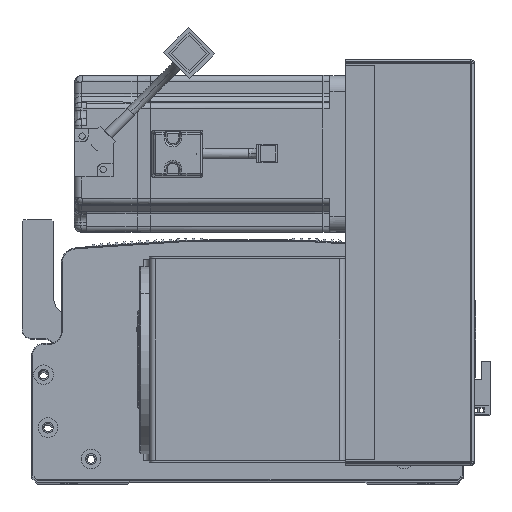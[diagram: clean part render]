
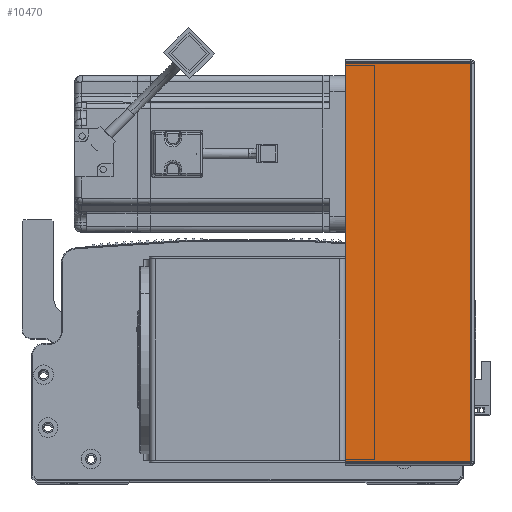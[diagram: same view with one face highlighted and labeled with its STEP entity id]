
A CAD part, top view. The second image highlights one B-rep face of the part: STEP entity #10470.
In plain terms, the highlighted planar face has unit normal (0, 0, 1) as drawn and (0, -1, 0) by its records, which use the part's own axes.
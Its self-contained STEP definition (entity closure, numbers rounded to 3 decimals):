
#8001 = CARTESIAN_POINT ( 'NONE',  ( 0.737, -1.5, -0.707 ) ) ;
#10108 = CARTESIAN_POINT ( 'NONE',  ( 0.737, -1.5, -203.293 ) ) ;
#10470 = ADVANCED_FACE ( 'NONE', ( #81721 ), #26099, .F. ) ;
#11791 = ORIENTED_EDGE ( 'NONE', *, *, #24671, .T. ) ;
#15607 = LINE ( 'NONE', #59714, #42257 ) ;
#19975 = EDGE_CURVE ( 'NONE', #25696, #48358, #65099, .T. ) ;
#22315 = ORIENTED_EDGE ( 'NONE', *, *, #75652, .F. ) ;
#24671 = EDGE_CURVE ( 'NONE', #71424, #48358, #68476, .T. ) ;
#25696 = VERTEX_POINT ( 'NONE', #8001 ) ;
#26099 = PLANE ( 'NONE',  #28482 ) ;
#28482 = AXIS2_PLACEMENT_3D ( 'NONE', #63011, #56922, #76201 ) ;
#28694 = VECTOR ( 'NONE', #54315, 1000. ) ;
#40975 = VECTOR ( 'NONE', #76830, 1000. ) ;
#42257 = VECTOR ( 'NONE', #47582, 1000. ) ;
#45678 = EDGE_LOOP ( 'NONE', ( #22315, #47899, #11791, #60400 ) ) ;
#47582 = DIRECTION ( 'NONE',  ( 1., 0., 0. ) ) ;
#47899 = ORIENTED_EDGE ( 'NONE', *, *, #71721, .T. ) ;
#48358 = VERTEX_POINT ( 'NONE', #60620 ) ;
#48807 = CARTESIAN_POINT ( 'NONE',  ( 0., -1.5, -0.707 ) ) ;
#54315 = DIRECTION ( 'NONE',  ( 1., 0., 0. ) ) ;
#56922 = DIRECTION ( 'NONE',  ( 0., 1., 0. ) ) ;
#57929 = VECTOR ( 'NONE', #70038, 1000. ) ;
#58913 = CARTESIAN_POINT ( 'NONE',  ( 64.5, -1.5, 0. ) ) ;
#59714 = CARTESIAN_POINT ( 'NONE',  ( 0., -1.5, -203.293 ) ) ;
#60400 = ORIENTED_EDGE ( 'NONE', *, *, #19975, .F. ) ;
#60620 = CARTESIAN_POINT ( 'NONE',  ( 64.5, -1.5, -0.707 ) ) ;
#63011 = CARTESIAN_POINT ( 'NONE',  ( 0., -1.5, 0. ) ) ;
#64555 = CARTESIAN_POINT ( 'NONE',  ( 0.737, -1.5, 0. ) ) ;
#65099 = LINE ( 'NONE', #48807, #28694 ) ;
#67788 = LINE ( 'NONE', #64555, #57929 ) ;
#68476 = LINE ( 'NONE', #58913, #40975 ) ;
#70038 = DIRECTION ( 'NONE',  ( 0., 0., 1. ) ) ;
#71424 = VERTEX_POINT ( 'NONE', #81491 ) ;
#71721 = EDGE_CURVE ( 'NONE', #71826, #71424, #15607, .T. ) ;
#71826 = VERTEX_POINT ( 'NONE', #10108 ) ;
#75652 = EDGE_CURVE ( 'NONE', #71826, #25696, #67788, .T. ) ;
#76201 = DIRECTION ( 'NONE',  ( -1., 0., 0. ) ) ;
#76830 = DIRECTION ( 'NONE',  ( 0., 0., 1. ) ) ;
#81491 = CARTESIAN_POINT ( 'NONE',  ( 64.5, -1.5, -203.293 ) ) ;
#81721 = FACE_OUTER_BOUND ( 'NONE', #45678, .T. ) ;
